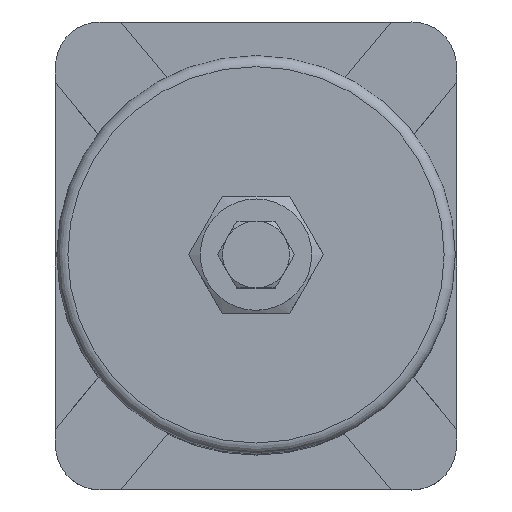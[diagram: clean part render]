
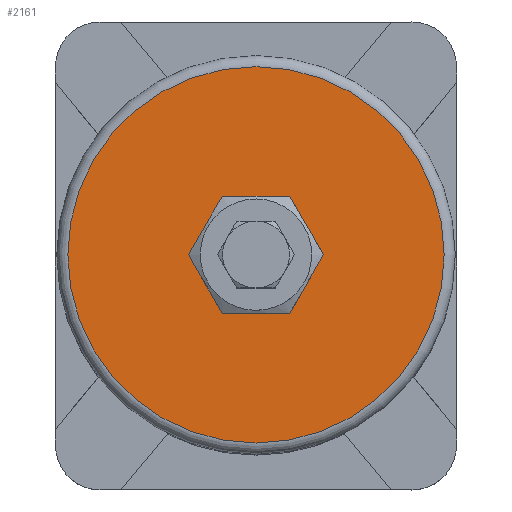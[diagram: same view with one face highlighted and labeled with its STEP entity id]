
A CAD part, top view. The second image highlights one B-rep face of the part: STEP entity #2161.
In plain terms, the highlighted planar face has unit normal (0, 0, 1).
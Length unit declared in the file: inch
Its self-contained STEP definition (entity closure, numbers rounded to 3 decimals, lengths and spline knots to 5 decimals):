
#407=PLANE('',#2310);
#496=FACE_BOUND('',#681,.T.);
#540=FACE_OUTER_BOUND('',#680,.T.);
#680=EDGE_LOOP('',(#1436));
#681=EDGE_LOOP('',(#1437));
#859=CIRCLE('',#2307,2.1113);
#861=CIRCLE('',#2311,0.38281);
#943=VERTEX_POINT('',#3043);
#945=VERTEX_POINT('',#3049);
#1143=EDGE_CURVE('',#943,#943,#859,.T.);
#1145=EDGE_CURVE('',#945,#945,#861,.T.);
#1436=ORIENTED_EDGE('',*,*,#1143,.F.);
#1437=ORIENTED_EDGE('',*,*,#1145,.F.);
#2161=ADVANCED_FACE('',(#540,#496),#407,.T.);
#2307=AXIS2_PLACEMENT_3D('',#3044,#2511,#2512);
#2310=AXIS2_PLACEMENT_3D('',#3048,#2517,#2518);
#2311=AXIS2_PLACEMENT_3D('',#3050,#2519,#2520);
#2511=DIRECTION('center_axis',(0.,0.,
-1.));
#2512=DIRECTION('ref_axis',(-1.,0.,0.));
#2517=DIRECTION('center_axis',(0.,0.,
1.));
#2518=DIRECTION('ref_axis',(1.,0.,0.));
#2519=DIRECTION('center_axis',(0.,0.,
1.));
#2520=DIRECTION('ref_axis',(1.,0.,0.));
#3043=CARTESIAN_POINT('',(2.1113,0.,7.6875));
#3044=CARTESIAN_POINT('Origin',(0.,0.,
7.6875));
#3048=CARTESIAN_POINT('Origin',(1.31641,0.,7.6875));
#3049=CARTESIAN_POINT('',(0.38281,0.,7.6875));
#3050=CARTESIAN_POINT('Origin',(0.,0.,
7.6875));
